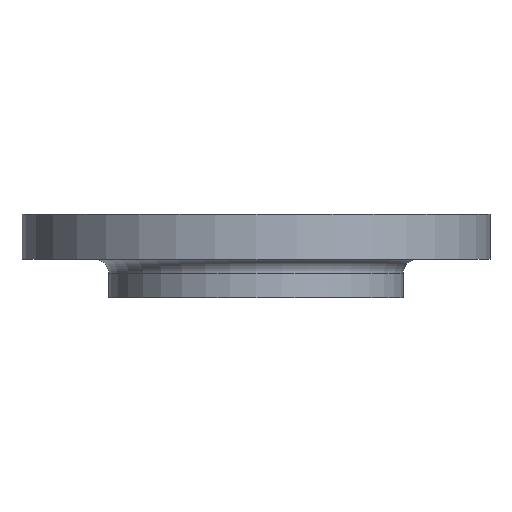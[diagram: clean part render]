
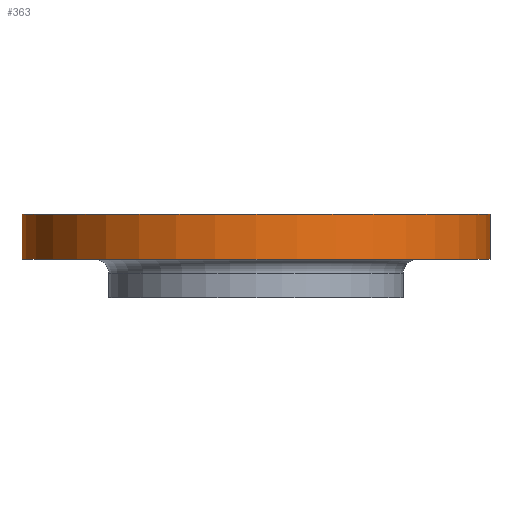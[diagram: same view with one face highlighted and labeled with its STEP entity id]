
A CAD part, front view. The second image highlights one B-rep face of the part: STEP entity #363.
In plain terms, the highlighted cylindrical face has radius 135 mm (diameter 270 mm), a partial arc.
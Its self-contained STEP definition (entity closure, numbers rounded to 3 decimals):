
#21 = CIRCLE ( 'NONE', #23, 135. ) ;
#23 = AXIS2_PLACEMENT_3D ( 'NONE', #241, #240, #239 ) ;
#28 = VECTOR ( 'NONE', #156, 1000. ) ;
#105 = CARTESIAN_POINT ( 'NONE',  ( 135., 0., 0. ) ) ;
#120 = CARTESIAN_POINT ( 'NONE',  ( -135., 0., -26. ) ) ;
#129 = DIRECTION ( 'NONE',  ( 1., 0., 0. ) ) ;
#132 = DIRECTION ( 'NONE',  ( 0., 0., 1. ) ) ;
#133 = CARTESIAN_POINT ( 'NONE',  ( 0., 0., -26. ) ) ;
#156 = DIRECTION ( 'NONE',  ( 0., 0., 1. ) ) ;
#157 = CARTESIAN_POINT ( 'NONE',  ( 135., 0., -78. ) ) ;
#158 = LINE ( 'NONE', #157, #28 ) ;
#160 = CARTESIAN_POINT ( 'NONE',  ( -135., 0., 0. ) ) ;
#168 = DIRECTION ( 'NONE',  ( 0., 0., 1. ) ) ;
#169 = CARTESIAN_POINT ( 'NONE',  ( -135., 0., -78. ) ) ;
#170 = LINE ( 'NONE', #169, #266 ) ;
#239 = DIRECTION ( 'NONE',  ( 1., 0., 0. ) ) ;
#240 = DIRECTION ( 'NONE',  ( 0., 0., 1. ) ) ;
#241 = CARTESIAN_POINT ( 'NONE',  ( 0., 0., 0. ) ) ;
#259 = CARTESIAN_POINT ( 'NONE',  ( 135., 0., -26. ) ) ;
#266 = VECTOR ( 'NONE', #168, 1000. ) ;
#363 = ADVANCED_FACE ( 'NONE', ( #596 ), #385, .T. ) ;
#381 = DIRECTION ( 'NONE',  ( 1., 0., 0. ) ) ;
#385 = CYLINDRICAL_SURFACE ( 'NONE', #606, 135. ) ;
#392 = DIRECTION ( 'NONE',  ( 0., 0., 1. ) ) ;
#400 = CARTESIAN_POINT ( 'NONE',  ( 0., 0., -78. ) ) ;
#529 = AXIS2_PLACEMENT_3D ( 'NONE', #133, #132, #129 ) ;
#531 = CIRCLE ( 'NONE', #529, 135. ) ;
#596 = FACE_OUTER_BOUND ( 'NONE', #925, .T. ) ;
#606 = AXIS2_PLACEMENT_3D ( 'NONE', #400, #392, #381 ) ;
#675 = VERTEX_POINT ( 'NONE', #259 ) ;
#686 = EDGE_CURVE ( 'NONE', #750, #907, #21, .T. ) ;
#737 = EDGE_CURVE ( 'NONE', #870, #750, #170, .T. ) ;
#750 = VERTEX_POINT ( 'NONE', #160 ) ;
#761 = EDGE_CURVE ( 'NONE', #675, #907, #158, .T. ) ;
#787 = ORIENTED_EDGE ( 'NONE', *, *, #737, .F. ) ;
#788 = ORIENTED_EDGE ( 'NONE', *, *, #835, .T. ) ;
#789 = ORIENTED_EDGE ( 'NONE', *, *, #761, .T. ) ;
#790 = ORIENTED_EDGE ( 'NONE', *, *, #686, .F. ) ;
#835 = EDGE_CURVE ( 'NONE', #870, #675, #531, .T. ) ;
#870 = VERTEX_POINT ( 'NONE', #120 ) ;
#907 = VERTEX_POINT ( 'NONE', #105 ) ;
#925 = EDGE_LOOP ( 'NONE', ( #787, #788, #789, #790 ) ) ;
